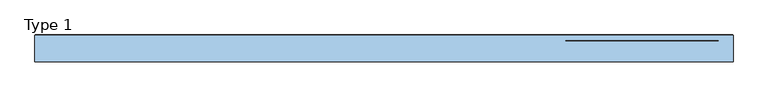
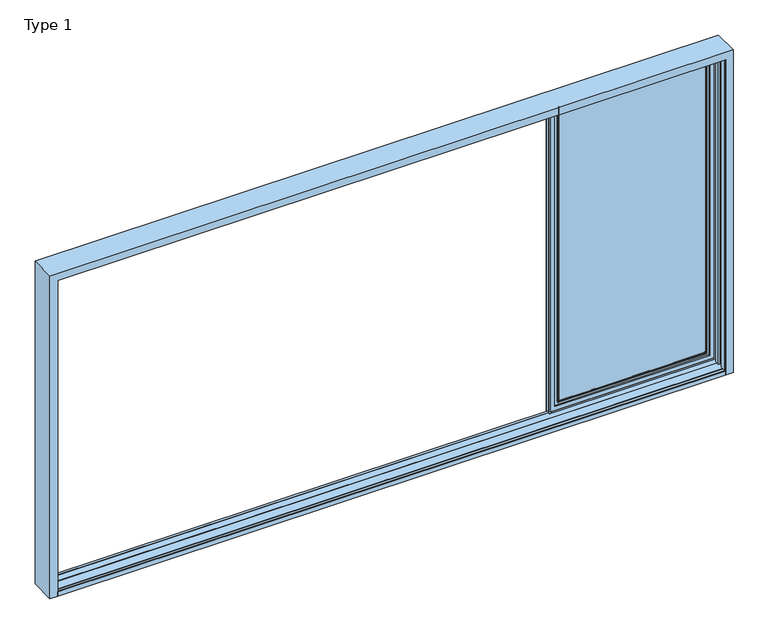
"""IFC4 building model written with IfcOpenShell, lengths in millimetres: window geometry, ETEM_E50_Quadruple_Fly Screen_Lift_Sliding_FR : Type 1."""

from ifc_helpers import new_model, si_unit, frame, origin, place, context, project, spatial, polyline, ellipse_curve, outline, extrude, faceted_brep, source, transform, mapped, element, save
from ifc_brep_helpers import plane_surface, cylinder_surface, revolved_surface, advanced_brep


def type_1_650238f2(model_context):
    return source(origin(), model_context, "Body", "SolidModel", [
        advanced_brep(
        [(1156.0, 99.3481944, 2095.5), (1156.0, 72.3620462, 2095.5), (1156.0, 72.3620462, 94.970192), (1156.0, 99.3481944, 94.970192), (1154.2, 72.3620462, 93.170192), (2097.299965, 72.3620462, 93.170192), (2097.299965, 72.3620462, 2097.3), (1154.2, 72.3620462, 2097.3), (2095.499965, 72.3620462, 2095.5), (2095.499965, 72.3620462, 94.970192), (2095.499965, 99.3481944, 94.970192), (1143.5, 99.3481944, 2108.0), (2107.999965, 99.3481944, 2108.0), (2107.999965, 99.3481944, 82.470192), (1143.5, 99.3481944, 82.470192), (2095.499965, 99.3481944, 2095.5), (1143.5, 90.1481944, 2108.0), (1143.5, 90.1481944, 82.470192), (2107.999965, 90.1481944, 82.470192), (1126.7, 90.1481944, 2124.8), (2124.799965, 90.1481944, 2124.8), (2124.799965, 90.1481944, 65.670192), (1126.7, 90.1481944, 65.670192), (2107.999965, 90.1481944, 2108.0), (1126.7, 99.3481944, 2124.8), (1126.7, 99.3481944, 65.670192), (2124.799965, 99.3481944, 65.670192), (1091.0, 99.3481944, 2160.5), (2160.499965, 99.3481944, 2160.5), (2160.499965, 99.3481944, 29.970192), (1091.0, 99.3481944, 29.970192), (2124.799965, 99.3481944, 2124.8), (1091.0, 92.1481944, 2160.5), (1091.0, 92.1481944, 29.970192), (2160.499965, 92.1481944, 29.970192), (2160.499965, 92.1481944, 2160.5), (1103.2, 92.1481944, 2148.3), (2148.299965, 92.1481944, 2148.3), (2148.299965, 92.1481944, 42.170192), (1103.2, 92.1481944, 42.170192), (1103.2, 74.5481944, 2148.3), (1103.2, 74.5481944, 42.170192), (2148.299965, 74.5481944, 42.170192), (1091.0, 74.5481944, 2160.5), (2160.499965, 74.5481944, 2160.5), (2160.499965, 74.5481944, 29.970192), (1091.0, 74.5481944, 29.970192), (2148.299965, 74.5481944, 2148.3), (1091.0, 65.5481944, 2160.5), (1091.0, 65.5481944, 29.970192), (2160.499965, 65.5481944, 29.970192), (2160.499965, 65.5481944, 2160.5), (1100.5050126, 65.5481944, 2150.9949874), (2150.9949524, 65.5481944, 2150.9949874), (2150.9949524, 65.5481944, 39.4752045), (1100.5050126, 65.5481944, 39.4752045), (1100.5050126, 67.3481944, 2150.9949874), (1100.5050126, 67.3481944, 39.4752045), (2150.9949524, 67.3481944, 39.4752045), (2150.9949524, 67.3481944, 2150.9949874), (1126.7, 67.3481944, 2124.8), (2124.799965, 67.3481944, 2124.8), (2124.799965, 67.3481944, 65.670192), (1126.7, 67.3481944, 65.670192), (1126.7, 76.3481944, 2124.8), (1126.7, 76.3481944, 65.670192), (2124.799965, 76.3481944, 65.670192), (2124.799965, 76.3481944, 2124.8), (1147.2, 76.3481944, 2104.3), (2104.299965, 76.3481944, 2104.3), (2104.299965, 76.3481944, 86.170192), (1147.2, 76.3481944, 86.170192), (1147.2, 70.2436394, 2104.3), (1147.2, 70.2436394, 86.170192), (2104.299965, 70.2436394, 86.170192), (1146.6545455, 69.7457098, 2104.8454545), (1146.6545455, 69.7457098, 85.6247374), (2104.8454195, 69.7457098, 85.6247374), (1146.6, 68.5481944, 2104.9), (1146.6, 68.5481944, 85.570192), (2104.899965, 68.5481944, 85.570192), (2104.899965, 68.5481944, 2104.9), (1148.6, 68.5481944, 2102.9), (2102.899965, 68.5481944, 2102.9), (2102.899965, 68.5481944, 87.570192), (1148.6, 68.5481944, 87.570192), (1148.6, 78.8481944, 2102.9), (1148.6, 78.8481944, 87.570192), (2102.899965, 78.8481944, 87.570192), (2102.899965, 78.8481944, 2102.9), (1154.8, 78.8481944, 2096.7), (2096.699965, 78.8481944, 2096.7), (2096.699965, 78.8481944, 93.770192), (1154.8, 78.8481944, 93.770192), (1154.8, 74.0574913, 2096.7), (1154.8, 74.0574913, 93.770192), (2096.699965, 74.0574913, 93.770192), (1154.2545455, 73.5595617, 2097.2454545), (1154.2545455, 73.5595617, 93.2247374), (2097.2454195, 73.5595617, 93.2247374), (2104.299965, 70.2436394, 2104.3), (2104.8454195, 69.7457098, 2104.8454545), (2096.699965, 74.0574913, 2096.7), (2097.2454195, 73.5595617, 2097.2454545)],
        [
            (0, 1),
            (1, 2),
            (2, 3),
            (3, 0),
            (4, 5),
            (5, 6),
            (6, 7),
            (7, 4),
            (1, 8),
            (8, 9),
            (9, 2),
            (9, 10),
            (10, 3),
            (11, 12),
            (12, 13),
            (13, 14),
            (14, 11),
            (10, 15),
            (15, 0),
            (16, 11),
            (14, 17),
            (17, 16),
            (13, 18),
            (18, 17),
            (19, 20),
            (20, 21),
            (21, 22),
            (22, 19),
            (18, 23),
            (23, 16),
            (24, 19),
            (22, 25),
            (25, 24),
            (21, 26),
            (26, 25),
            (27, 28),
            (28, 29),
            (29, 30),
            (30, 27),
            (26, 31),
            (31, 24),
            (32, 27),
            (30, 33),
            (33, 32),
            (29, 34),
            (34, 33),
            (34, 35),
            (35, 32),
            (36, 37),
            (37, 38),
            (38, 39),
            (39, 36),
            (40, 36),
            (39, 41),
            (41, 40),
            (38, 42),
            (42, 41),
            (43, 44),
            (44, 45),
            (45, 46),
            (46, 43),
            (42, 47),
            (47, 40),
            (48, 43),
            (46, 49),
            (49, 48),
            (45, 50),
            (50, 49),
            (50, 51),
            (51, 48),
            (52, 53),
            (53, 54),
            (54, 55),
            (55, 52),
            (56, 52),
            (55, 57),
            (57, 56),
            (54, 58),
            (58, 57),
            (58, 59),
            (59, 56),
            (60, 61),
            (61, 62),
            (62, 63),
            (63, 60),
            (64, 60),
            (63, 65),
            (65, 64),
            (62, 66),
            (66, 65),
            (66, 67),
            (67, 64),
            (68, 69),
            (69, 70),
            (70, 71),
            (71, 68),
            (72, 68),
            (71, 73),
            (73, 72),
            (70, 74),
            (74, 73),
            (75, 72, ellipse_curve(frame((1146.7, 70.2436394, 2104.8), z_axis=(0.7071067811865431, 0.0, 0.707106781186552), x_axis=(0.707106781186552, 0.0, -0.7071067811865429)), 0.7071068, 0.5)),
            (73, 76, ellipse_curve(frame((1146.7, 70.2436394, 85.670192), z_axis=(0.707106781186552, 0.0, -0.707106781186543), x_axis=(-0.7071067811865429, 0.0, -0.707106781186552)), 0.7071068, 0.5)),
            (76, 75),
            (74, 77, ellipse_curve(frame((2104.799965, 70.2436394, 85.670192), z_axis=(0.707106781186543, 0.0, 0.707106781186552), x_axis=(0.707106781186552, 0.0, -0.7071067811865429)), 0.7071068, 0.5)),
            (77, 76),
            (78, 75, ellipse_curve(frame((1146.6, 69.1481944, 2104.9), z_axis=(-0.7071067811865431, 0.0, -0.707106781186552), x_axis=(-0.707106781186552, 0.0, 0.7071067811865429)), 0.8485281, 0.6)),
            (76, 79, ellipse_curve(frame((1146.6, 69.1481944, 85.570192), z_axis=(-0.707106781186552, 0.0, 0.707106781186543), x_axis=(0.7071067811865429, 0.0, 0.707106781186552)), 0.8485281, 0.6)),
            (79, 78),
            (77, 80, ellipse_curve(frame((2104.899965, 69.1481944, 85.570192), z_axis=(-0.707106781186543, 0.0, -0.707106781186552), x_axis=(-0.707106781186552, 0.0, 0.7071067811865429)), 0.8485281, 0.6)),
            (80, 79),
            (80, 81),
            (81, 78),
            (82, 83),
            (83, 84),
            (84, 85),
            (85, 82),
            (86, 82),
            (85, 87),
            (87, 86),
            (84, 88),
            (88, 87),
            (88, 89),
            (89, 86),
            (90, 91),
            (91, 92),
            (92, 93),
            (93, 90),
            (94, 90),
            (93, 95),
            (95, 94),
            (92, 96),
            (96, 95),
            (97, 94, ellipse_curve(frame((1154.3, 74.0574913, 2097.2), z_axis=(0.7071067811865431, 0.0, 0.707106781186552), x_axis=(0.707106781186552, 0.0, -0.7071067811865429)), 0.7071068, 0.5)),
            (95, 98, ellipse_curve(frame((1154.3, 74.0574913, 93.270192), z_axis=(0.707106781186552, 0.0, -0.707106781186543), x_axis=(-0.7071067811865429, 0.0, -0.707106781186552)), 0.7071068, 0.5)),
            (98, 97),
            (96, 99, ellipse_curve(frame((2097.199965, 74.0574913, 93.270192), z_axis=(0.707106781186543, 0.0, 0.707106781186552), x_axis=(0.707106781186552, 0.0, -0.7071067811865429)), 0.7071068, 0.5)),
            (99, 98),
            (7, 97, ellipse_curve(frame((1154.2, 72.9620462, 2097.3), z_axis=(-0.7071067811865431, 0.0, -0.707106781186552), x_axis=(-0.707106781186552, 0.0, 0.7071067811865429)), 0.8485281, 0.6)),
            (98, 4, ellipse_curve(frame((1154.2, 72.9620462, 93.170192), z_axis=(-0.707106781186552, 0.0, 0.707106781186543), x_axis=(0.7071067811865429, 0.0, 0.707106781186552)), 0.8485281, 0.6)),
            (99, 5, ellipse_curve(frame((2097.299965, 72.9620462, 93.170192), z_axis=(-0.707106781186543, 0.0, -0.707106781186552), x_axis=(-0.707106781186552, 0.0, 0.7071067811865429)), 0.8485281, 0.6)),
            (8, 15),
            (12, 23),
            (20, 31),
            (28, 35),
            (37, 47),
            (44, 51),
            (53, 59),
            (61, 67),
            (69, 100),
            (100, 74),
            (100, 101, ellipse_curve(frame((2104.799965, 70.2436394, 2104.8), z_axis=(-0.7071067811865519, 0.0, 0.707106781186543), x_axis=(0.7071067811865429, 0.0, 0.7071067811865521)), 0.7071068, 0.5)),
            (101, 77),
            (101, 81, ellipse_curve(frame((2104.899965, 69.1481944, 2104.9), z_axis=(0.7071067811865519, 0.0, -0.707106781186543), x_axis=(-0.7071067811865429, 0.0, -0.7071067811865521)), 0.8485281, 0.6)),
            (83, 89),
            (91, 102),
            (102, 96),
            (102, 103, ellipse_curve(frame((2097.199965, 74.0574913, 2097.2), z_axis=(-0.7071067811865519, 0.0, 0.707106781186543), x_axis=(0.7071067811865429, 0.0, 0.7071067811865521)), 0.7071068, 0.5)),
            (103, 99),
            (103, 6, ellipse_curve(frame((2097.299965, 72.9620462, 2097.3), z_axis=(0.7071067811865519, 0.0, -0.707106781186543), x_axis=(-0.7071067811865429, 0.0, -0.7071067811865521)), 0.8485281, 0.6)),
            (72, 100),
            (75, 101),
            (94, 102),
            (97, 103),
        ],
        [
            plane_surface(frame((1156.0, 72.3620462, 2095.5), z_axis=(1.0, 0.0, 0.0), x_axis=(0.0, 0.0, -1.0))),
            plane_surface(frame((2097.299965, 72.3620462, 2097.3), z_axis=(0.0, -1.0, 0.0), x_axis=(-1.0, 0.0, 0.0))),
            plane_surface(frame((1156.0, 72.3620462, 94.970192), z_axis=(0.0, 0.0, 1.0), x_axis=(1.0, 0.0, 0.0))),
            plane_surface(frame((2095.499965, 99.3481944, 2095.5), z_axis=(0.0, 1.0, 0.0), x_axis=(-1.0, 0.0, 0.0))),
            plane_surface(frame((1143.5, 99.3481944, 2108.0), z_axis=(-1.0, 0.0, 0.0), x_axis=(0.0, 0.0, -1.0))),
            plane_surface(frame((1143.5, 99.3481944, 82.470192), z_axis=(0.0, 0.0, -1.0), x_axis=(1.0, 0.0, 0.0))),
            plane_surface(frame((2107.999965, 90.1481944, 2108.0), z_axis=(0.0, 1.0, 0.0), x_axis=(-1.0, 0.0, 0.0))),
            plane_surface(frame((1126.7, 90.1481944, 2124.8), z_axis=(1.0, 0.0, 0.0), x_axis=(0.0, 0.0, -1.0))),
            plane_surface(frame((1126.7, 90.1481944, 65.670192), z_axis=(0.0, 0.0, 1.0), x_axis=(1.0, 0.0, 0.0))),
            plane_surface(frame((2124.799965, 99.3481944, 2124.8), z_axis=(0.0, 1.0, 0.0), x_axis=(-1.0, 0.0, 0.0))),
            plane_surface(frame((1091.0, 99.3481944, 2160.5), z_axis=(-1.0, 0.0, 0.0), x_axis=(0.0, 0.0, -1.0))),
            plane_surface(frame((1091.0, 99.3481944, 29.970192), z_axis=(0.0, 0.0, -1.0), x_axis=(1.0, 0.0, 0.0))),
            plane_surface(frame((2160.499965, 92.1481944, 2160.5), z_axis=(0.0, -1.0, 0.0), x_axis=(-1.0, 0.0, 0.0))),
            plane_surface(frame((1103.2, 92.1481944, 2148.3), z_axis=(-1.0, 0.0, 0.0), x_axis=(0.0, 0.0, -1.0))),
            plane_surface(frame((1103.2, 92.1481944, 42.170192), z_axis=(0.0, 0.0, -1.0), x_axis=(1.0, 0.0, 0.0))),
            plane_surface(frame((2148.299965, 74.5481944, 2148.3), z_axis=(0.0, 1.0, 0.0), x_axis=(-1.0, 0.0, 0.0))),
            plane_surface(frame((1091.0, 74.5481944, 2160.5), z_axis=(-1.0, 0.0, 0.0), x_axis=(0.0, 0.0, -1.0))),
            plane_surface(frame((1091.0, 74.5481944, 29.970192), z_axis=(0.0, 0.0, -1.0), x_axis=(1.0, 0.0, 0.0))),
            plane_surface(frame((2160.499965, 65.5481944, 2160.5), z_axis=(0.0, -1.0, 0.0), x_axis=(-1.0, 0.0, 0.0))),
            plane_surface(frame((1100.5050126, 65.5481944, 2150.9949874), z_axis=(1.0, 0.0, 0.0), x_axis=(0.0, 0.0, -1.0))),
            plane_surface(frame((1100.5050126, 65.5481944, 39.4752045), z_axis=(0.0, 0.0, 1.0), x_axis=(1.0, 0.0, 0.0))),
            plane_surface(frame((2150.9949524, 67.3481944, 2150.9949874), z_axis=(0.0, -1.0, 0.0), x_axis=(-1.0, 0.0, 0.0))),
            plane_surface(frame((1126.7, 67.3481944, 2124.8), z_axis=(1.0, 0.0, 0.0), x_axis=(0.0, 0.0, -1.0))),
            plane_surface(frame((1126.7, 67.3481944, 65.670192), z_axis=(0.0, 0.0, 1.0), x_axis=(1.0, 0.0, 0.0))),
            plane_surface(frame((2124.799965, 76.3481944, 2124.8), z_axis=(0.0, -1.0, 0.0), x_axis=(-1.0, 0.0, 0.0))),
            plane_surface(frame((1147.2, 76.3481944, 2104.3), z_axis=(-1.0, 0.0, 0.0), x_axis=(0.0, 0.0, -1.0))),
            plane_surface(frame((1147.2, 76.3481944, 86.170192), z_axis=(0.0, 0.0, -1.0), x_axis=(1.0, 0.0, 0.0))),
            revolved_surface(polyline([(1146.2, 70.2436394, 85.17019198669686), (1146.2, 70.2436394, 2105.3000000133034)]), (1146.7, 70.2436394, 2160.5), (0.0, 0.0, -1.0)),
            revolved_surface(polyline([(2105.2999650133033, 70.2436394, 85.170192), (1146.1999999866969, 70.2436394, 85.170192)]), (1091.0, 70.2436394, 85.670192), (1.0, 0.0, 0.0)),
            cylinder_surface(frame((1146.6, 69.1481944, 2160.5), z_axis=(0.0, 0.0, 1.0), x_axis=(-1.0, 0.0, 0.0)), 0.6),
            cylinder_surface(frame((1091.0, 69.1481944, 85.570192), z_axis=(-1.0, 0.0, 0.0), x_axis=(0.0, 0.0, -1.0)), 0.6),
            plane_surface(frame((2104.899965, 68.5481944, 2104.9), z_axis=(0.0, -1.0, 0.0), x_axis=(-1.0, 0.0, 0.0))),
            plane_surface(frame((1148.6, 68.5481944, 2102.9), z_axis=(1.0, 0.0, 0.0), x_axis=(0.0, 0.0, -1.0))),
            plane_surface(frame((1148.6, 68.5481944, 87.570192), z_axis=(0.0, 0.0, 1.0), x_axis=(1.0, 0.0, 0.0))),
            plane_surface(frame((2102.899965, 78.8481944, 2102.9), z_axis=(0.0, -1.0, 0.0), x_axis=(-1.0, 0.0, 0.0))),
            plane_surface(frame((1154.8, 78.8481944, 2096.7), z_axis=(-1.0, 0.0, 0.0), x_axis=(0.0, 0.0, -1.0))),
            plane_surface(frame((1154.8, 78.8481944, 93.770192), z_axis=(0.0, 0.0, -1.0), x_axis=(1.0, 0.0, 0.0))),
            revolved_surface(polyline([(1153.8, 74.0574913, 92.77019198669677), (1153.8, 74.0574913, 2097.700000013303)]), (1154.3, 74.0574913, 2160.5), (0.0, 0.0, -1.0)),
            revolved_surface(polyline([(2097.699965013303, 74.0574913, 92.770192), (1153.7999999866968, 74.0574913, 92.770192)]), (1091.0, 74.0574913, 93.270192), (1.0, 0.0, 0.0)),
            cylinder_surface(frame((1154.2, 72.9620462, 2160.5), z_axis=(0.0, 0.0, 1.0), x_axis=(-1.0, 0.0, 0.0)), 0.6),
            cylinder_surface(frame((1091.0, 72.9620462, 93.170192), z_axis=(-1.0, 0.0, 0.0), x_axis=(0.0, 0.0, -1.0)), 0.6),
            plane_surface(frame((2095.499965, 72.3620462, 94.970192), z_axis=(-1.0, 0.0, 0.0), x_axis=(0.0, 0.0, 1.0))),
            plane_surface(frame((2107.999965, 99.3481944, 82.470192), z_axis=(1.0, 0.0, 0.0), x_axis=(0.0, 0.0, 1.0))),
            plane_surface(frame((2124.799965, 90.1481944, 65.670192), z_axis=(-1.0, 0.0, 0.0), x_axis=(0.0, 0.0, 1.0))),
            plane_surface(frame((2160.499965, 99.3481944, 29.970192), z_axis=(1.0, 0.0, 0.0), x_axis=(0.0, 0.0, 1.0))),
            plane_surface(frame((2148.299965, 92.1481944, 42.170192), z_axis=(1.0, 0.0, 0.0), x_axis=(0.0, 0.0, 1.0))),
            plane_surface(frame((2160.499965, 74.5481944, 29.970192), z_axis=(1.0, 0.0, 0.0), x_axis=(0.0, 0.0, 1.0))),
            plane_surface(frame((2150.9949524, 65.5481944, 39.4752045), z_axis=(-1.0, 0.0, 0.0), x_axis=(0.0, 0.0, 1.0))),
            plane_surface(frame((2124.799965, 67.3481944, 65.670192), z_axis=(-1.0, 0.0, 0.0), x_axis=(0.0, 0.0, 1.0))),
            plane_surface(frame((2104.299965, 76.3481944, 86.170192), z_axis=(1.0, 0.0, 0.0), x_axis=(0.0, 0.0, 1.0))),
            revolved_surface(polyline([(2105.299965, 70.2436394, 2105.3000000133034), (2105.299965, 70.2436394, 85.17019198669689)]), (2104.799965, 70.2436394, 29.970192), (0.0, 0.0, 1.0)),
            cylinder_surface(frame((2104.899965, 69.1481944, 29.970192), z_axis=(0.0, 0.0, -1.0), x_axis=(1.0, 0.0, 0.0)), 0.6),
            plane_surface(frame((2102.899965, 68.5481944, 87.570192), z_axis=(-1.0, 0.0, 0.0), x_axis=(0.0, 0.0, 1.0))),
            plane_surface(frame((2096.699965, 78.8481944, 93.770192), z_axis=(1.0, 0.0, 0.0), x_axis=(0.0, 0.0, 1.0))),
            revolved_surface(polyline([(2097.699965, 74.0574913, 2097.700000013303), (2097.699965, 74.0574913, 92.77019198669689)]), (2097.199965, 74.0574913, 29.970192), (0.0, 0.0, 1.0)),
            cylinder_surface(frame((2097.299965, 72.9620462, 29.970192), z_axis=(0.0, 0.0, -1.0), x_axis=(1.0, 0.0, 0.0)), 0.6),
            plane_surface(frame((2095.499965, 72.3620462, 2095.5), z_axis=(0.0, 0.0, -1.0), x_axis=(-1.0, 0.0, 0.0))),
            plane_surface(frame((2107.999965, 99.3481944, 2108.0), z_axis=(0.0, 0.0, 1.0), x_axis=(-1.0, 0.0, 0.0))),
            plane_surface(frame((2124.799965, 90.1481944, 2124.8), z_axis=(0.0, 0.0, -1.0), x_axis=(-1.0, 0.0, 0.0))),
            plane_surface(frame((2160.499965, 99.3481944, 2160.5), z_axis=(0.0, 0.0, 1.0), x_axis=(-1.0, 0.0, 0.0))),
            plane_surface(frame((2148.299965, 92.1481944, 2148.3), z_axis=(0.0, 0.0, 1.0), x_axis=(-1.0, 0.0, 0.0))),
            plane_surface(frame((2160.499965, 74.5481944, 2160.5), z_axis=(0.0, 0.0, 1.0), x_axis=(-1.0, 0.0, 0.0))),
            plane_surface(frame((2150.9949524, 65.5481944, 2150.9949874), z_axis=(0.0, 0.0, -1.0), x_axis=(-1.0, 0.0, 0.0))),
            plane_surface(frame((2124.799965, 67.3481944, 2124.8), z_axis=(0.0, 0.0, -1.0), x_axis=(-1.0, 0.0, 0.0))),
            plane_surface(frame((2104.299965, 76.3481944, 2104.3), z_axis=(0.0, 0.0, 1.0), x_axis=(-1.0, 0.0, 0.0))),
            revolved_surface(polyline([(1146.1999999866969, 70.2436394, 2105.3), (2105.2999650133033, 70.2436394, 2105.3)]), (2160.499965, 70.2436394, 2104.8), (-1.0, 0.0, 0.0)),
            cylinder_surface(frame((2160.499965, 69.1481944, 2104.9), z_axis=(1.0, 0.0, 0.0), x_axis=(0.0, 0.0, 1.0)), 0.6),
            plane_surface(frame((2102.899965, 68.5481944, 2102.9), z_axis=(0.0, 0.0, -1.0), x_axis=(-1.0, 0.0, 0.0))),
            plane_surface(frame((2096.699965, 78.8481944, 2096.7), z_axis=(0.0, 0.0, 1.0), x_axis=(-1.0, 0.0, 0.0))),
            revolved_surface(polyline([(1153.7999999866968, 74.0574913, 2097.7), (2097.699965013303, 74.0574913, 2097.7)]), (2160.499965, 74.0574913, 2097.2), (-1.0, 0.0, 0.0)),
            cylinder_surface(frame((2160.499965, 72.9620462, 2097.3), z_axis=(1.0, 0.0, 0.0), x_axis=(0.0, 0.0, 1.0)), 0.6),
        ],
        [
            (0, [[1, 2, 3, 4]]),
            (1, [[5, 6, 7, 8], [9, 10, 11, -2]]),
            (2, [[-3, -11, 12, 13]]),
            (3, [[14, 15, 16, 17], [-13, 18, 19, -4]]),
            (4, [[20, -17, 21, 22]]),
            (5, [[-21, -16, 23, 24]]),
            (6, [[25, 26, 27, 28], [-24, 29, 30, -22]]),
            (7, [[31, -28, 32, 33]]),
            (8, [[-32, -27, 34, 35]]),
            (9, [[36, 37, 38, 39], [-35, 40, 41, -33]]),
            (10, [[42, -39, 43, 44]]),
            (11, [[-43, -38, 45, 46]]),
            (12, [[-46, 47, 48, -44], [49, 50, 51, 52]]),
            (13, [[53, -52, 54, 55]]),
            (14, [[-54, -51, 56, 57]]),
            (15, [[58, 59, 60, 61], [-57, 62, 63, -55]]),
            (16, [[64, -61, 65, 66]]),
            (17, [[-65, -60, 67, 68]]),
            (18, [[-68, 69, 70, -66], [71, 72, 73, 74]]),
            (19, [[75, -74, 76, 77]]),
            (20, [[-76, -73, 78, 79]]),
            (21, [[-79, 80, 81, -77], [82, 83, 84, 85]]),
            (22, [[86, -85, 87, 88]]),
            (23, [[-87, -84, 89, 90]]),
            (24, [[-90, 91, 92, -88], [93, 94, 95, 96]]),
            (25, [[97, -96, 98, 99]]),
            (26, [[-98, -95, 100, 101]]),
            (27, [[102, -99, 103, 104]]),
            (28, [[-103, -101, 105, 106]]),
            (29, [[107, -104, 108, 109]]),
            (30, [[-108, -106, 110, 111]]),
            (31, [[-111, 112, 113, -109], [114, 115, 116, 117]]),
            (32, [[118, -117, 119, 120]]),
            (33, [[-119, -116, 121, 122]]),
            (34, [[-122, 123, 124, -120], [125, 126, 127, 128]]),
            (35, [[129, -128, 130, 131]]),
            (36, [[-130, -127, 132, 133]]),
            (37, [[134, -131, 135, 136]]),
            (38, [[-135, -133, 137, 138]]),
            (39, [[139, -136, 140, -8]]),
            (40, [[-140, -138, 141, -5]]),
            (41, [[-12, -10, 142, -18]]),
            (42, [[-23, -15, 143, -29]]),
            (43, [[-34, -26, 144, -40]]),
            (44, [[-45, -37, 145, -47]]),
            (45, [[-56, -50, 146, -62]]),
            (46, [[-67, -59, 147, -69]]),
            (47, [[-78, -72, 148, -80]]),
            (48, [[-89, -83, 149, -91]]),
            (49, [[-100, -94, 150, 151]]),
            (50, [[-105, -151, 152, 153]]),
            (51, [[-110, -153, 154, -112]]),
            (52, [[-121, -115, 155, -123]]),
            (53, [[-132, -126, 156, 157]]),
            (54, [[-137, -157, 158, 159]]),
            (55, [[-141, -159, 160, -6]]),
            (56, [[-142, -9, -1, -19]]),
            (57, [[-143, -14, -20, -30]]),
            (58, [[-144, -25, -31, -41]]),
            (59, [[-145, -36, -42, -48]]),
            (60, [[-146, -49, -53, -63]]),
            (61, [[-147, -58, -64, -70]]),
            (62, [[-148, -71, -75, -81]]),
            (63, [[-149, -82, -86, -92]]),
            (64, [[-150, -93, -97, 161]]),
            (65, [[-152, -161, -102, 162]]),
            (66, [[-154, -162, -107, -113]]),
            (67, [[-155, -114, -118, -124]]),
            (68, [[-156, -125, -129, 163]]),
            (69, [[-158, -163, -134, 164]]),
            (70, [[-160, -164, -139, -7]]),
        ],
    ),
        extrude(outline(polyline([(1152.0, 72.3620462), (2099.499965, 72.3620462), (2099.499965, 71.3620462), (1152.0, 71.3620462), (1152.0, 72.3620462)])), frame((0.0, 0.0, 90.970192), z_axis=(0.0, 0.0, 1.0), x_axis=(1.0, 0.0, 0.0)), (0.0, 0.0, 1.0), 2008.529808),
        faceted_brep([(2200.0, -63.2518056, 0.0), (2200.0, 103.5481944, 0.0), (2200.0, 103.5481944, 2200.0), (2200.0, -63.2518056, 2200.0), (2178.2, 78.8474397, 0.0), (2178.2, 36.8481944, 0.0), (2178.2, 36.8481944, 2178.2), (2178.2, 78.8474397, 2178.2), (2178.2, 27.8481944, 0.0), (2178.2, -28.1518056, 0.0), (2178.2, -28.1518056, 2178.2), (2178.2, 27.8481944, 2178.2), (2151.5, -16.6518056, 0.0), (2151.5, -48.6518056, 0.0), (2151.5, -48.6518056, 2151.5), (2151.5, -16.6518056, 2151.5), (2159.5, -48.6518056, 0.0), (2159.5, -37.1518056, 0.0), (2159.5, -37.1518056, 2159.5), (2159.5, -48.6518056, 2159.5), (2178.2, -37.1518056, 0.0), (2178.2, -59.6518056, 0.0), (2178.2, -59.6518056, 2178.2), (2178.2, -37.1518056, 2178.2), (2151.5, -59.6518056, 0.0), (2151.5, -63.2518056, 0.0), (2151.5, -63.2518056, 2151.5), (2151.5, -59.6518056, 2151.5), (-2200.0, 103.5481944, 0.0), (-2200.0, -63.2518056, 0.0), (-2200.0, -63.2518056, 2200.0), (-2200.0, 103.5481944, 2200.0), (-2178.2, 36.8481944, 0.0), (-2178.2, 78.8474397, 0.0), (-2178.2, 78.8474397, 2178.2), (-2178.2, 36.8481944, 2178.2), (-2178.2, -28.1518056, 0.0), (-2178.2, 27.8481944, 0.0), (-2178.2, 27.8481944, 2178.2), (-2178.2, -28.1518056, 2178.2), (-2151.5, -48.6518056, 0.0), (-2151.5, -16.6518056, 0.0), (-2151.5, -16.6518056, 2151.5), (-2151.5, -48.6518056, 2151.5), (-2159.5, -37.1518056, 0.0), (-2159.5, -48.6518056, 0.0), (-2159.5, -48.6518056, 2159.5), (-2159.5, -37.1518056, 2159.5), (-2178.2, -59.6518056, 0.0), (-2178.2, -37.1518056, 0.0), (-2178.2, -37.1518056, 2178.2), (-2178.2, -59.6518056, 2178.2), (-2151.5, -63.2518056, 0.0), (-2151.5, -59.6518056, 0.0), (-2151.5, -59.6518056, 2151.5), (-2151.5, -63.2518056, 2151.5), (-2178.2, 87.8474397, 0.0), (-2178.2, 101.4, 0.0), (-2178.2, 101.4, 2178.2), (-2178.2, 87.8474397, 2178.2), (2178.2, 101.4, 0.0), (2178.2, 87.8474397, 0.0), (2178.2, 87.8474397, 2178.2), (2178.2, 101.4, 2178.2), (2159.5, 87.8474397, 0.0), (2159.5, 89.3481944, 0.0), (2159.5, 89.3481944, 2159.5), (2159.5, 87.8474397, 2159.5), (2151.5, 89.3481944, 0.0), (2151.5, 77.3481944, 0.0), (2151.5, 77.3481944, 2151.5), (2151.5, 89.3481944, 2151.5), (2159.5, 77.3481944, 0.0), (2159.5, 78.8474397, 0.0), (2159.5, 78.8474397, 2159.5), (2159.5, 77.3481944, 2159.5), (-2159.5, 89.3481944, 0.0), (-2159.5, 87.8474397, 0.0), (-2159.5, 87.8474397, 2159.5), (-2159.5, 89.3481944, 2159.5), (-2151.5, 77.3481944, 0.0), (-2151.5, 89.3481944, 0.0), (-2151.5, 89.3481944, 2151.5), (-2151.5, 77.3481944, 2151.5), (-2159.5, 78.8474397, 0.0), (-2159.5, 77.3481944, 0.0), (-2159.5, 77.3481944, 2159.5), (-2159.5, 78.8474397, 2159.5), (2159.5, 36.8481944, 0.0), (2159.5, 48.3481944, 0.0), (2159.5, 48.3481944, 2159.5), (2159.5, 36.8481944, 2159.5), (2151.5, 48.3481944, 0.0), (2151.5, 16.3481944, 0.0), (2151.5, 16.3481944, 2151.5), (2151.5, 48.3481944, 2151.5), (2159.5, 16.3481944, 0.0), (2159.5, 27.8481944, 0.0), (2159.5, 27.8481944, 2159.5), (2159.5, 16.3481944, 2159.5), (2159.5, -28.1518056, 0.0), (2159.5, -16.6518056, 0.0), (2159.5, -16.6518056, 2159.5), (2159.5, -28.1518056, 2159.5), (-2159.5, 48.3481944, 0.0), (-2159.5, 36.8481944, 0.0), (-2159.5, 36.8481944, 2159.5), (-2159.5, 48.3481944, 2159.5), (-2151.5, 16.3481944, 0.0), (-2151.5, 48.3481944, 0.0), (-2151.5, 48.3481944, 2151.5), (-2151.5, 16.3481944, 2151.5), (-2159.5, 27.8481944, 0.0), (-2159.5, 16.3481944, 0.0), (-2159.5, 16.3481944, 2159.5), (-2159.5, 27.8481944, 2159.5), (-2159.5, -16.6518056, 0.0), (-2159.5, -28.1518056, 0.0), (-2159.5, -28.1518056, 2159.5), (-2159.5, -16.6518056, 2159.5), (-2196.5, 103.5481944, 0.0), (-2196.5, 105.0, 0.0), (-2151.5, 105.0, 0.0), (-2151.5, 101.4, 0.0), (2196.5, 103.5481944, 0.0), (2196.5, 103.5481944, 2196.5), (-2196.5, 103.5481944, 2196.5), (-2196.5, 105.0, 2196.5), (2196.5, 105.0, 2196.5), (2196.5, 105.0, 0.0), (2151.5, 105.0, 0.0), (2151.5, 105.0, 2151.5), (-2151.5, 105.0, 2151.5), (-2151.5, 101.4, 2151.5), (2151.5, 101.4, 2151.5), (2151.5, 101.4, 0.0)], [[[0, 1, 2, 3]], [[4, 5, 6, 7]], [[8, 9, 10, 11]], [[12, 13, 14, 15]], [[16, 17, 18, 19]], [[20, 21, 22, 23]], [[24, 25, 26, 27]], [[28, 29, 30, 31]], [[32, 33, 34, 35]], [[36, 37, 38, 39]], [[40, 41, 42, 43]], [[44, 45, 46, 47]], [[48, 49, 50, 51]], [[52, 53, 54, 55]], [[3, 2, 31, 30]], [[7, 6, 35, 34]], [[11, 10, 39, 38]], [[15, 14, 43, 42]], [[19, 18, 47, 46]], [[23, 22, 51, 50]], [[27, 26, 55, 54]], [[56, 57, 58, 59]], [[60, 61, 62, 63]], [[64, 65, 66, 67]], [[68, 69, 70, 71]], [[72, 73, 74, 75]], [[76, 77, 78, 79]], [[80, 81, 82, 83]], [[84, 85, 86, 87]], [[63, 62, 59, 58]], [[67, 66, 79, 78]], [[71, 70, 83, 82]], [[75, 74, 87, 86]], [[88, 89, 90, 91]], [[92, 93, 94, 95]], [[96, 97, 98, 99]], [[100, 101, 102, 103]], [[104, 105, 106, 107]], [[108, 109, 110, 111]], [[112, 113, 114, 115]], [[116, 117, 118, 119]], [[91, 90, 107, 106]], [[95, 94, 111, 110]], [[99, 98, 115, 114]], [[103, 102, 119, 118]], [[52, 29, 28, 120, 121, 122, 123, 57, 56, 77, 76, 81, 80, 85, 84, 33, 32, 105, 104, 109, 108, 113, 112, 37, 36, 117, 116, 41, 40, 45, 44, 49, 48, 53]], [[29, 52, 55, 26, 25, 0, 3, 30]], [[2, 1, 124, 125, 126, 120, 28, 31]], [[121, 120, 126, 127]], [[122, 121, 127, 128, 129, 130, 131, 132]], [[123, 122, 132, 133]], [[57, 123, 133, 134, 135, 60, 63, 58]], [[77, 56, 59, 62, 61, 64, 67, 78]], [[81, 76, 79, 66, 65, 68, 71, 82]], [[85, 80, 83, 70, 69, 72, 75, 86]], [[33, 84, 87, 74, 73, 4, 7, 34]], [[105, 32, 35, 6, 5, 88, 91, 106]], [[109, 104, 107, 90, 89, 92, 95, 110]], [[113, 108, 111, 94, 93, 96, 99, 114]], [[37, 112, 115, 98, 97, 8, 11, 38]], [[117, 36, 39, 10, 9, 100, 103, 118]], [[41, 116, 119, 102, 101, 12, 15, 42]], [[45, 40, 43, 14, 13, 16, 19, 46]], [[49, 44, 47, 18, 17, 20, 23, 50]], [[53, 48, 51, 22, 21, 24, 27, 54]], [[25, 24, 21, 20, 17, 16, 13, 12, 101, 100, 9, 8, 97, 96, 93, 92, 89, 88, 5, 4, 73, 72, 69, 68, 65, 64, 61, 60, 135, 130, 129, 124, 1, 0]], [[130, 135, 134, 131]], [[124, 129, 128, 125]], [[132, 131, 134, 133]], [[128, 127, 126, 125]]]),
        faceted_brep([(-2178.2, 100.7481944, 0.0), (2178.2, 100.7481944, 0.0), (2178.2, 87.8474398, 0.0), (2159.5, 87.8474398, 0.0), (2159.5, 89.3481944, 0.0), (2151.5, 89.3481944, 0.0), (2151.5, 77.3481944, 0.0), (2159.5, 77.3481944, 0.0), (2159.5, 78.8474398, 0.0), (2178.2, 78.8474398, 0.0), (2178.2, 36.8481944, 0.0), (2159.5, 36.8481944, 0.0), (2159.5, 48.3481944, 0.0), (2151.5, 48.3481944, 0.0), (2151.5, 16.3481944, 0.0), (2159.5, 16.3481944, 0.0), (2159.5, 27.8481944, 0.0), (2178.2, 27.8481944, 0.0), (2178.2, -28.1518056, 0.0), (2159.5, -28.1518056, 0.0), (2159.5, -16.6518056, 0.0), (2151.5, -16.6518056, 0.0), (2151.5, -48.6518056, 0.0), (2159.5, -48.6518056, 0.0), (2159.5, -37.1518056, 0.0), (2178.2, -37.1518056, 0.0), (2178.2, -59.4518056, 0.0), (2151.5, -59.4518056, 0.0), (2151.5, -63.2518056, 0.0), (-2151.5, -63.2518056, 0.0), (-2151.5, -59.4518056, 0.0), (-2178.2, -59.4518056, 0.0), (-2178.2, -37.1518056, 0.0), (-2159.5, -37.1518056, 0.0), (-2159.5, -48.6518056, 0.0), (-2151.5, -48.6518056, 0.0), (-2151.5, -16.6518056, 0.0), (-2159.5, -16.6518056, 0.0), (-2159.5, -28.1518056, 0.0), (-2178.2, -28.1518056, 0.0), (-2178.2, 27.8481944, 0.0), (-2159.5, 27.8481944, 0.0), (-2159.5, 16.3481944, 0.0), (-2151.5, 16.3481944, 0.0), (-2151.5, 48.3481944, 0.0), (-2159.5, 48.3481944, 0.0), (-2159.5, 36.8481944, 0.0), (-2178.2, 36.8481944, 0.0), (-2178.2, 78.8474398, 0.0), (-2159.5, 78.8474398, 0.0), (-2159.5, 77.3481944, 0.0), (-2151.5, 77.3481944, 0.0), (-2151.5, 89.3481944, 0.0), (-2159.5, 89.3481944, 0.0), (-2159.5, 87.8474398, 0.0), (-2178.2, 87.8474398, 0.0), (2151.5, -63.2518056, 29.970192), (-2151.5, -63.2518056, 29.970192), (2151.5, -59.4518056, 29.970192), (-2151.5, -59.4518056, 29.970192), (2151.5, -59.4518056, 25.0), (-2151.5, -59.4518056, 25.0), (2178.2, -59.4518056, 25.0), (2178.2, -37.1518056, 25.0), (2159.5, -37.1518056, 25.0), (2159.5, -48.6518056, 25.0), (2151.5, -48.6518056, 25.0), (2151.5, -35.1518056, 25.0), (-2151.5, -35.1518056, 25.0), (-2151.5, -48.6518056, 25.0), (-2159.5, -48.6518056, 25.0), (-2159.5, -37.1518056, 25.0), (-2178.2, -37.1518056, 25.0), (-2178.2, -59.4518056, 25.0), (2151.5, -35.1518056, 21.1999997), (-2151.5, -35.1518056, 21.1999997), (2151.5, -30.1518056, 21.1999997), (-2151.5, -30.1518056, 21.1999997), (2151.5, -30.1518056, 25.0), (-2151.5, -30.1518056, 25.0), (2151.5, -16.6518056, 25.0), (2159.5, -16.6518056, 25.0), (2159.5, -28.1518056, 25.0), (2178.2, -28.1518056, 25.0), (2178.2, 27.8481944, 25.0), (2159.5, 27.8481944, 25.0), (2159.5, 16.3481944, 25.0), (2151.5, 16.3481944, 25.0), (2151.5, 29.8481944, 25.0), (-2151.5, 29.8481944, 25.0), (-2151.5, 16.3481944, 25.0), (-2159.5, 16.3481944, 25.0), (-2159.5, 27.8481944, 25.0), (-2178.2, 27.8481944, 25.0), (-2178.2, -28.1518056, 25.0), (-2159.5, -28.1518056, 25.0), (-2159.5, -16.6518056, 25.0), (-2151.5, -16.6518056, 25.0), (2151.5, 29.8481944, 21.1999997), (-2151.5, 29.8481944, 21.1999997), (2151.5, 34.8481944, 21.1999997), (-2151.5, 34.8481944, 21.1999997), (2151.5, 34.8481944, 25.0), (-2151.5, 34.8481944, 25.0), (2151.5, 48.3481944, 25.0), (2159.5, 48.3481944, 25.0), (2159.5, 36.8481944, 25.0), (2178.2, 36.8481944, 25.0), (2178.2, 78.8474398, 25.0), (2159.5, 78.8474398, 25.0), (2159.5, 77.3481944, 25.0), (2151.5, 77.3481944, 25.0), (2151.5, 80.8481944, 25.0), (-2151.5, 80.8481944, 25.0), (-2151.5, 77.3481944, 25.0), (-2159.5, 77.3481944, 25.0), (-2159.5, 78.8474398, 25.0), (-2178.2, 78.8474398, 25.0), (-2178.2, 36.8481944, 25.0), (-2159.5, 36.8481944, 25.0), (-2159.5, 48.3481944, 25.0), (-2151.5, 48.3481944, 25.0), (2151.5, 80.8481944, 21.1999997), (-2151.5, 80.8481944, 21.1999997), (2151.5, 85.8481944, 21.1999997), (-2151.5, 85.8481944, 21.1999997), (2151.5, 85.8481944, 25.0), (-2151.5, 85.8481944, 25.0), (2151.5, 89.3481944, 25.0), (2159.5, 89.3481944, 25.0), (2159.5, 87.8474398, 25.0), (2178.2, 87.8474398, 25.0), (2178.2, 100.7481944, 25.0), (-2178.2, 100.7481944, 25.0), (-2178.2, 87.8474398, 25.0), (-2159.5, 87.8474398, 25.0), (-2159.5, 89.3481944, 25.0), (-2151.5, 89.3481944, 25.0)], [[[0, 1, 2, 3, 4, 5, 6, 7, 8, 9, 10, 11, 12, 13, 14, 15, 16, 17, 18, 19, 20, 21, 22, 23, 24, 25, 26, 27, 28, 29, 30, 31, 32, 33, 34, 35, 36, 37, 38, 39, 40, 41, 42, 43, 44, 45, 46, 47, 48, 49, 50, 51, 52, 53, 54, 55]], [[29, 28, 56, 57]], [[57, 56, 58, 59]], [[59, 58, 60, 61]], [[61, 60, 62, 63, 64, 65, 66, 67, 68, 69, 70, 71, 72, 73]], [[68, 67, 74, 75]], [[75, 74, 76, 77]], [[77, 76, 78, 79]], [[79, 78, 80, 81, 82, 83, 84, 85, 86, 87, 88, 89, 90, 91, 92, 93, 94, 95, 96, 97]], [[89, 88, 98, 99]], [[99, 98, 100, 101]], [[101, 100, 102, 103]], [[103, 102, 104, 105, 106, 107, 108, 109, 110, 111, 112, 113, 114, 115, 116, 117, 118, 119, 120, 121]], [[113, 112, 122, 123]], [[123, 122, 124, 125]], [[125, 124, 126, 127]], [[127, 126, 128, 129, 130, 131, 132, 133, 134, 135, 136, 137]], [[1, 0, 133, 132]], [[61, 30, 29, 57, 59]], [[30, 61, 73, 31]], [[31, 73, 72, 32]], [[32, 72, 71, 33]], [[33, 71, 70, 34]], [[34, 70, 69, 35]], [[35, 69, 68, 75, 77, 79, 97, 36]], [[36, 97, 96, 37]], [[37, 96, 95, 38]], [[38, 95, 94, 39]], [[39, 94, 93, 40]], [[40, 93, 92, 41]], [[41, 92, 91, 42]], [[42, 91, 90, 43]], [[43, 90, 89, 99, 101, 103, 121, 44]], [[44, 121, 120, 45]], [[45, 120, 119, 46]], [[46, 119, 118, 47]], [[47, 118, 117, 48]], [[48, 117, 116, 49]], [[49, 116, 115, 50]], [[50, 115, 114, 51]], [[51, 114, 113, 123, 125, 127, 137, 52]], [[52, 137, 136, 53]], [[53, 136, 135, 54]], [[54, 135, 134, 55]], [[55, 134, 133, 0]], [[131, 2, 1, 132]], [[2, 131, 130, 3]], [[3, 130, 129, 4]], [[4, 129, 128, 5]], [[5, 128, 126, 124, 122, 112, 111, 6]], [[6, 111, 110, 7]], [[7, 110, 109, 8]], [[8, 109, 108, 9]], [[9, 108, 107, 10]], [[10, 107, 106, 11]], [[11, 106, 105, 12]], [[12, 105, 104, 13]], [[13, 104, 102, 100, 98, 88, 87, 14]], [[14, 87, 86, 15]], [[15, 86, 85, 16]], [[16, 85, 84, 17]], [[17, 84, 83, 18]], [[18, 83, 82, 19]], [[19, 82, 81, 20]], [[20, 81, 80, 21]], [[21, 80, 78, 76, 74, 67, 66, 22]], [[22, 66, 65, 23]], [[23, 65, 64, 24]], [[24, 64, 63, 25]], [[62, 26, 25, 63]], [[26, 62, 60, 27]], [[27, 60, 58, 56, 28]]]),
    ])


if __name__ == "__main__":
    model = new_model("IFC4")
    model_context = context("Model", 3, world=origin())
    ifc_project = project(units=[si_unit("LENGTHUNIT", "METRE", prefix="MILLI")], contexts=[model_context])
    site = spatial("IfcSite", under=ifc_project)
    building = spatial("IfcBuilding", under=site)
    placement = place(None, origin())
    type_1_shape = type_1_650238f2(model_context)
    element("IfcWindow", 1, ObjectType="ETEM_E50_Quadruple_Fly Screen_Lift_Sliding_FR : Type 1", at=placement, inside=building, context=model_context, shape_type="MappedRepresentation", body=[
        mapped(type_1_shape, transform((0.0, 0.0, 0.0), x_axis=(1.0, 0.0, 0.0), y_axis=(0.0, 1.0, 0.0), z_axis=(0.0, 0.0, 1.0))),
    ])
    save(model, "model.ifc")
